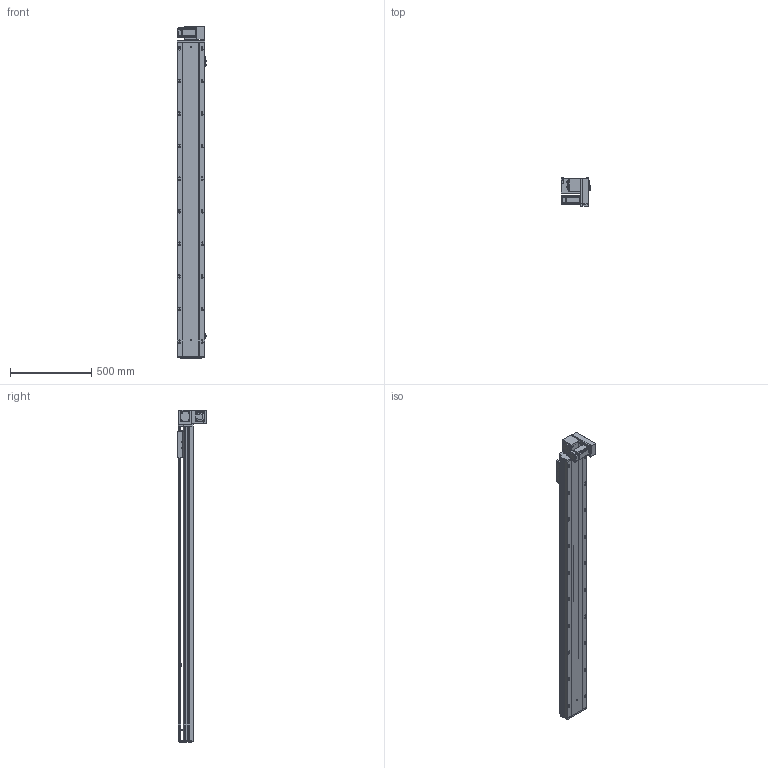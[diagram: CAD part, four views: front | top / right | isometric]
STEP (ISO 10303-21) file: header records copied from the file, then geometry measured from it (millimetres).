
FILE_DESCRIPTION (( 'STEP AP203' ), '1' );
FILE_NAME ('RY170-T-300-DR-P400W.SLDASM_1650.step', '2021-03-01T08:24:22', ( '盈信电脑' ), ( '东莞市道滘镇水果街19号' ), 'SwSTEP 2.0', 'SolidWorks 2012', '' );
FILE_SCHEMA (( 'CONFIG_CONTROL_DESIGN' ));
Length unit declared in the file: millimetre
Products named in the file (19): RY170-T-300-DR-P400W.SLDASM_1650; 15; RY170-T蹟翐M4; RY170-T-呴雄粣揤踡啣; 滅袉蝶18-10; RY120-T主同步轮轴承压盖; RY170-T肮祭謫裔啣; RY170-T肮祭湍揤踡輸1; RY170-T肮祭湍揤踡輸2; RY170肮祭謫萇儂欶; RY170肮祭謫ヶ裔啣; RY170翋肮祭謫釱; RY170同步轮电机安装板(400W); RY170綴裔啣; RY170-T-300肮祭謫倰第裔啣-DR_1650; RY170外置感应片(200共用）; 覜茼ん672; RY170肮祭湍臏賑輸; RY170-T-300肮祭謫倰第菁釱-DR_1650
Assembly tree (23 placements, depth 2):
  RY170-T-300-DR-P400W.SLDASM_1650
    RY170-T-300肮祭謫倰第菁釱-DR_1650
    RY170肮祭湍臏賑輸
    RY170-T-300肮祭謫倰第裔啣-DR_1650
    RY170綴裔啣
    覜茼ん672  x3
    RY170外置感应片(200共用）
    RY170肮祭謫ヶ裔啣
    RY170翋肮祭謫釱
    RY170同步轮电机安装板(400W)
    RY170肮祭謫萇儂欶
    RY170-T肮祭湍揤踡輸1  x2
    RY170-T肮祭湍揤踡輸2  x2
    RY120-T主同步轮轴承压盖
    RY170-T肮祭謫裔啣
    RY170-T蹟翐M4
    滅袉蝶18-10  x2
    RY170-T-呴雄粣揤踡啣
    15
Bounding box: 183.7 x 178 x 2038 mm (x, y, z)
Volume: 9628818.6 mm3; surface area: 3304069.9 mm2
Topology: 23 solids, 23 shells, 2926 faces, 8162 edges, 5213 vertices
Faces by surface type: cylinder 1342, plane 1270, cone 284, bspline 30
Entity records: 88309 total; most frequent: CARTESIAN_POINT 20068, ORIENTED_EDGE 13936, DIRECTION 13662, EDGE_CURVE 6968, AXIS2_PLACEMENT_3D 4837, VERTEX_POINT 4569, VECTOR 3988, LINE 3988
